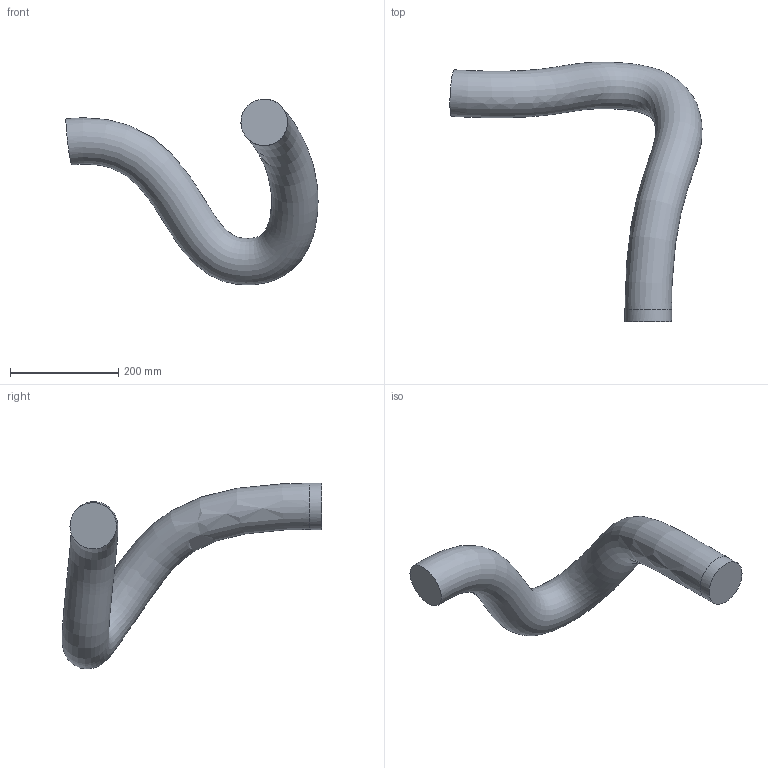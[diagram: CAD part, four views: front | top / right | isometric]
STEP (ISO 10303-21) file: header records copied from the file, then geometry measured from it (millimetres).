
FILE_DESCRIPTION (( 'STEP AP214' ), '1' );
FILE_NAME ('IRB7720_All-310_OC_00_LINK05_CABLE.step', '2026-01-28T12:47:27', ( '' ), ( '' ), 'SwSTEP 2.0', 'SolidWorks 2024', '' );
FILE_SCHEMA (( 'AUTOMOTIVE_DESIGN' ));
Length unit declared in the file: millimetre
Products named in the file (1): IRB7720_All-310_OC_00_LINK05_CABLE
Bounding box: 465.23 x 479.47 x 343.13 mm (x, y, z)
Volume: 5900957.8 mm3; surface area: 286190.4 mm2
Topology: 1 solids, 1 shells, 4 faces, 6 edges, 4 vertices
Faces by surface type: plane 2, bspline 1, cylinder 1
Full cylindrical faces by diameter (mm): 86 x1
Entity records: 45207 total; most frequent: CARTESIAN_POINT 45130, DIRECTION 10, FACE_OUTER_BOUND 6, ORIENTED_EDGE 6, EDGE_LOOP 6, AXIS2_PLACEMENT_3D 5, ADVANCED_FACE 4, EDGE_CURVE 3
